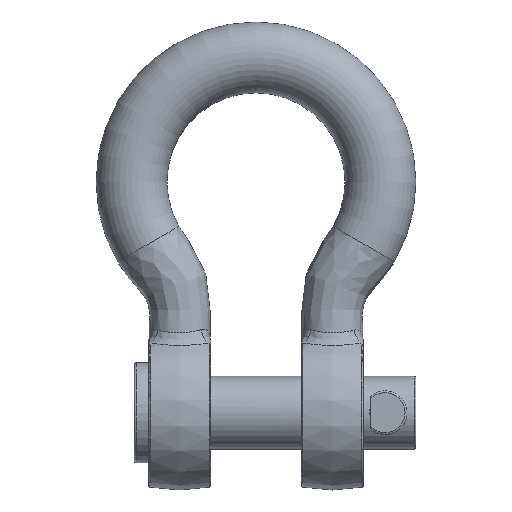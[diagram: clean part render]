
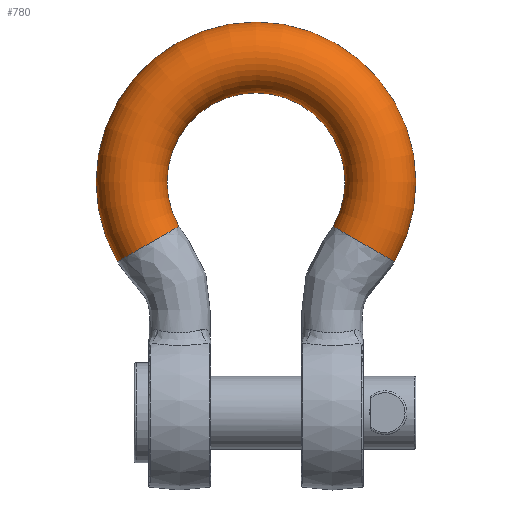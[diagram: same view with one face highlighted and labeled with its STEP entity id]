
A CAD part, top view. The second image highlights one B-rep face of the part: STEP entity #780.
In plain terms, the highlighted toroidal (fillet/blend) face has major radius 68.5 mm and minor radius 19.5 mm.
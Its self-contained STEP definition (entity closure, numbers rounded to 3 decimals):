
#68=TOROIDAL_SURFACE('',#924,68.5,19.5);
#144=FACE_OUTER_BOUND('',#192,.T.);
#192=EDGE_LOOP('',(#648,#649,#650,#651,#652,#653));
#280=CIRCLE('',#925,19.5);
#281=CIRCLE('',#926,19.5);
#282=CIRCLE('',#927,49.);
#283=CIRCLE('',#928,19.5);
#284=CIRCLE('',#929,19.5);
#358=VERTEX_POINT('',#2674);
#359=VERTEX_POINT('',#2675);
#360=VERTEX_POINT('',#2678);
#361=VERTEX_POINT('',#2680);
#462=EDGE_CURVE('',#358,#359,#280,.T.);
#463=EDGE_CURVE('',#359,#358,#281,.T.);
#464=EDGE_CURVE('',#359,#360,#282,.T.);
#465=EDGE_CURVE('',#360,#361,#283,.T.);
#466=EDGE_CURVE('',#361,#360,#284,.T.);
#648=ORIENTED_EDGE('',*,*,#462,.F.);
#649=ORIENTED_EDGE('',*,*,#463,.F.);
#650=ORIENTED_EDGE('',*,*,#464,.T.);
#651=ORIENTED_EDGE('',*,*,#465,.T.);
#652=ORIENTED_EDGE('',*,*,#466,.T.);
#653=ORIENTED_EDGE('',*,*,#464,.F.);
#780=ADVANCED_FACE('',(#144),#68,.T.);
#924=AXIS2_PLACEMENT_3D('',#2673,#1085,#1086);
#925=AXIS2_PLACEMENT_3D('',#2676,#1087,#1088);
#926=AXIS2_PLACEMENT_3D('',#2677,#1089,#1090);
#927=AXIS2_PLACEMENT_3D('',#2679,#1091,#1092);
#928=AXIS2_PLACEMENT_3D('',#2681,#1093,#1094);
#929=AXIS2_PLACEMENT_3D('',#2682,#1095,#1096);
#1085=DIRECTION('center_axis',(0.,0.,1.));
#1086=DIRECTION('ref_axis',(0.,1.,0.));
#1087=DIRECTION('center_axis',(0.5,-0.866,0.));
#1088=DIRECTION('ref_axis',(-0.866,-0.5,0.));
#1089=DIRECTION('center_axis',(0.5,-0.866,0.));
#1090=DIRECTION('ref_axis',(-0.866,-0.5,0.));
#1091=DIRECTION('center_axis',(0.,0.,-1.));
#1092=DIRECTION('ref_axis',(0.,1.,0.));
#1093=DIRECTION('center_axis',(0.5,0.866,0.));
#1094=DIRECTION('ref_axis',(0.866,-0.5,0.));
#1095=DIRECTION('center_axis',(0.5,0.866,0.));
#1096=DIRECTION('ref_axis',(0.866,-0.5,0.));
#2673=CARTESIAN_POINT('Origin',(0.,127.,0.));
#2674=CARTESIAN_POINT('',(-76.21,83.,0.));
#2675=CARTESIAN_POINT('',(-42.435,102.5,0.));
#2676=CARTESIAN_POINT('Origin',(-59.323,92.75,0.));
#2677=CARTESIAN_POINT('Origin',(-59.323,92.75,0.));
#2678=CARTESIAN_POINT('',(42.435,102.5,0.));
#2679=CARTESIAN_POINT('Origin',(0.,127.,0.));
#2680=CARTESIAN_POINT('',(76.21,83.,0.));
#2681=CARTESIAN_POINT('Origin',(59.323,92.75,0.));
#2682=CARTESIAN_POINT('Origin',(59.323,92.75,0.));
